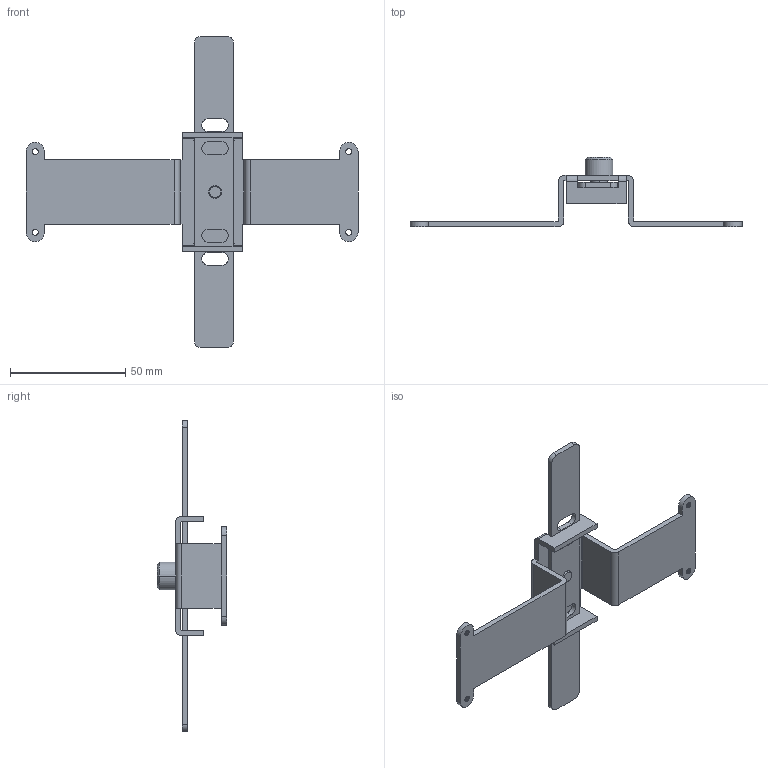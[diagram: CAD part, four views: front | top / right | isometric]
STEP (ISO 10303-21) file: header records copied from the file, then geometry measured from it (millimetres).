
FILE_DESCRIPTION(/* description */ (''),/* implementation_level */ '2;1');
FILE_NAME(/* name */ 'MIF25GM_2,3P_3D DATA.stp',/* time_stamp */ '2018-01-10T09:24:16+09:00',/* author */ (''),/* organization */ (''),/* preprocessor_version */ 'ST-DEVELOPER v15',/* originating_system */ 'SIEMENS PLM Software NX 9.0',/* authorisation */ '');
FILE_SCHEMA (('AP203_CONFIGURATION_CONTROLLED_3D_DESIGN_OF_MECHANICAL_PARTS_AND_ASSEMBLIES_MIM_LF { 1 0 10303 403 2 1 2}'));
Length unit declared in the file: millimetre
Products named in the file (5): GC1-OT-8035_R00; 4ME-08569-1_R00; GC3-PG-8006_R00; GC3-PG-8005_R00; GC3-AS-8020_R00
Assembly tree (4 placements, depth 2):
  GC3-AS-8020_R00
    GC3-PG-8005_R00
    GC3-PG-8006_R00
    4ME-08569-1_R00
    GC1-OT-8035_R00
Bounding box: 144 x 30.3 x 135 mm (x, y, z)
Volume: 19439.6 mm3; surface area: 20073.8 mm2
Topology: 4 solids, 4 shells, 132 faces, 368 edges, 242 vertices
Faces by surface type: plane 64, cylinder 58, cone 10
Full cylindrical faces by diameter (mm): 5.5 x4
Entity records: 4782 total; most frequent: DIRECTION 756, CARTESIAN_POINT 735, ORIENTED_EDGE 720, EDGE_CURVE 360, AXIS2_PLACEMENT_3D 259, VERTEX_POINT 238, LINE 238, VECTOR 238
